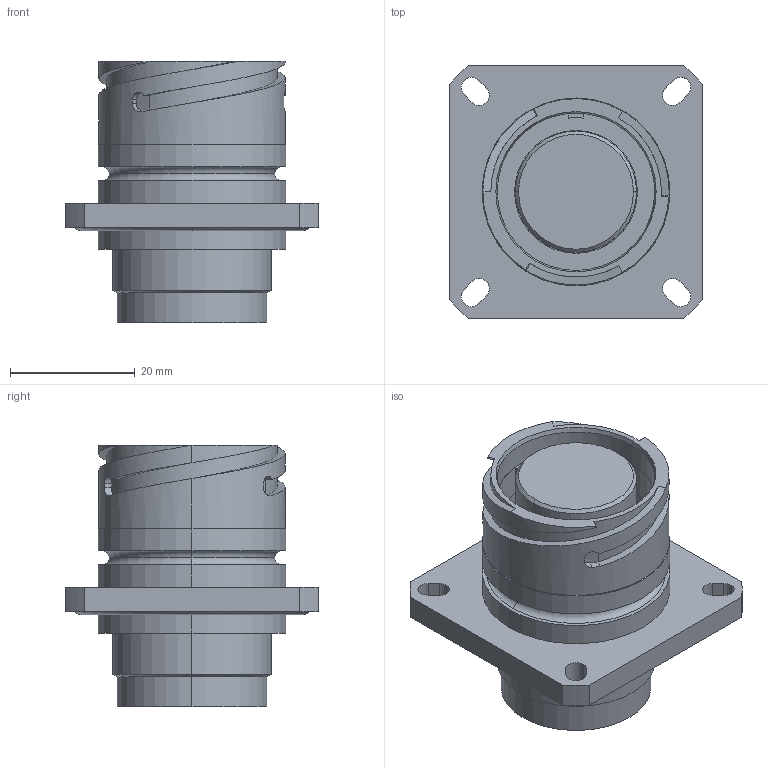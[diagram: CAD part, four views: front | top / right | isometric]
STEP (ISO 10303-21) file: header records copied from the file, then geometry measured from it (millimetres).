
FILE_DESCRIPTION (( 'STEP AP214' ), '1' );
FILE_NAME ('QLINK-RFBX-17XX-S00-RA.STEP', '2025-12-16T15:56:59', ( '' ), ( '' ), 'SwSTEP 2.0', 'SolidWorks 2024', '' );
FILE_SCHEMA (( 'AUTOMOTIVE_DESIGN' ));
Length unit declared in the file: millimetre
Products named in the file (1): QLINK-RFBX-17XX-S00-RA
Bounding box: 40.51 x 40.51 x 41.91 mm (x, y, z)
Volume: 24552.8 mm3; surface area: 11592.5 mm2
Topology: 2 solids, 2 shells, 142 faces, 342 edges, 215 vertices
Faces by surface type: cylinder 60, plane 42, torus 18, bspline 12, cone 10
Entity records: 5823 total; most frequent: CARTESIAN_POINT 2489, DIRECTION 708, ORIENTED_EDGE 684, EDGE_CURVE 342, AXIS2_PLACEMENT_3D 288, VERTEX_POINT 215, EDGE_LOOP 163, CIRCLE 157
